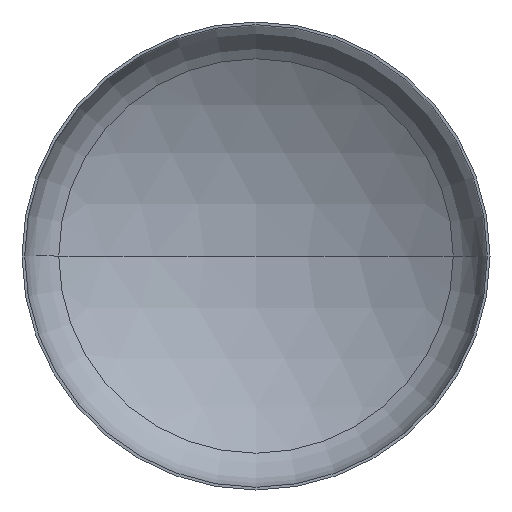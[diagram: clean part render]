
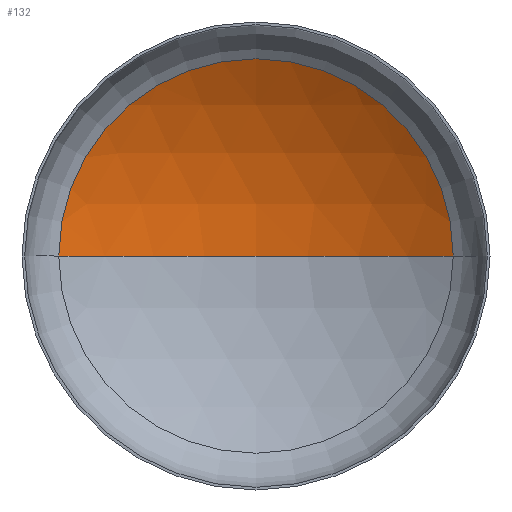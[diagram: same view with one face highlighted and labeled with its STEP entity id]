
A CAD part, front view. The second image highlights one B-rep face of the part: STEP entity #132.
In plain terms, the highlighted spherical face has radius 5200 mm.
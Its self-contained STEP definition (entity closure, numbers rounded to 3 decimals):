
#9 = CARTESIAN_POINT ( 'NONE',  ( 0., -3450.302, 0. ) ) ;
#27 = AXIS2_PLACEMENT_3D ( 'NONE', #9, #153, #335 ) ;
#30 = CARTESIAN_POINT ( 'NONE',  ( 2738.667, 970.072, 0. ) ) ;
#35 = CIRCLE ( 'NONE', #56, 2738.667 ) ;
#38 = AXIS2_PLACEMENT_3D ( 'NONE', #169, #159, #155 ) ;
#47 = AXIS2_PLACEMENT_3D ( 'NONE', #252, #249, #125 ) ;
#56 = AXIS2_PLACEMENT_3D ( 'NONE', #363, #342, #345 ) ;
#85 = EDGE_CURVE ( 'NONE', #215, #264, #35, .T. ) ;
#90 = EDGE_CURVE ( 'NONE', #406, #215, #290, .T. ) ;
#94 = EDGE_CURVE ( 'NONE', #406, #264, #217, .T. ) ;
#103 = ORIENTED_EDGE ( 'NONE', *, *, #85, .T. ) ;
#114 = ORIENTED_EDGE ( 'NONE', *, *, #90, .T. ) ;
#122 = FACE_OUTER_BOUND ( 'NONE', #356, .T. ) ;
#123 = CARTESIAN_POINT ( 'NONE',  ( -2738.667, 970.072, 0. ) ) ;
#125 = DIRECTION ( 'NONE',  ( -1., 0., 0. ) ) ;
#132 = ADVANCED_FACE ( 'NONE', ( #122 ), #200, .F. ) ;
#153 = DIRECTION ( 'NONE',  ( 0., 0., -1. ) ) ;
#155 = DIRECTION ( 'NONE',  ( 1., 0., 0. ) ) ;
#159 = DIRECTION ( 'NONE',  ( 0., 0., 1. ) ) ;
#169 = CARTESIAN_POINT ( 'NONE',  ( 0., -3450.302, 0. ) ) ;
#200 = SPHERICAL_SURFACE ( 'NONE', #27, 5200. ) ;
#215 = VERTEX_POINT ( 'NONE', #30 ) ;
#217 = CIRCLE ( 'NONE', #38, 5200. ) ;
#249 = DIRECTION ( 'NONE',  ( 0., 0., -1. ) ) ;
#252 = CARTESIAN_POINT ( 'NONE',  ( 0., -3450.302, 0. ) ) ;
#264 = VERTEX_POINT ( 'NONE', #123 ) ;
#290 = CIRCLE ( 'NONE', #47, 5200. ) ;
#317 = CARTESIAN_POINT ( 'NONE',  ( 0., 1749.698, 0. ) ) ;
#335 = DIRECTION ( 'NONE',  ( -1., 0., 0. ) ) ;
#342 = DIRECTION ( 'NONE',  ( 0., -1., 0. ) ) ;
#345 = DIRECTION ( 'NONE',  ( 1., 0., 0. ) ) ;
#356 = EDGE_LOOP ( 'NONE', ( #384, #114, #103 ) ) ;
#363 = CARTESIAN_POINT ( 'NONE',  ( 0., 970.072, 0. ) ) ;
#384 = ORIENTED_EDGE ( 'NONE', *, *, #94, .F. ) ;
#406 = VERTEX_POINT ( 'NONE', #317 ) ;
